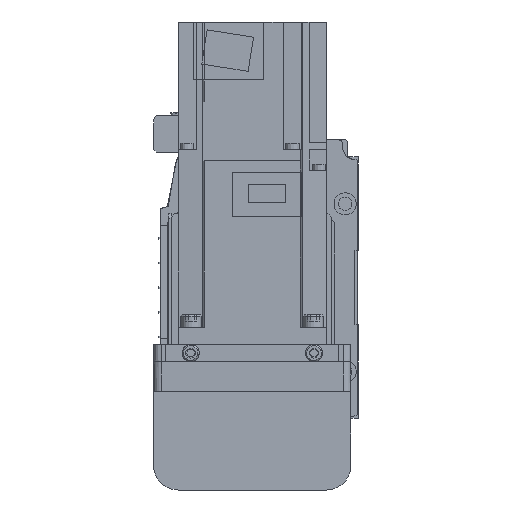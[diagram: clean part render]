
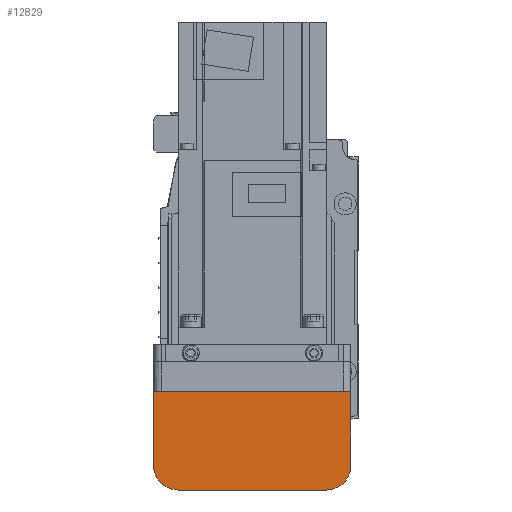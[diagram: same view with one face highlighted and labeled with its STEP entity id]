
A CAD part, left-side view. The second image highlights one B-rep face of the part: STEP entity #12829.
In plain terms, the highlighted planar face has unit normal (-1, 0, 0).
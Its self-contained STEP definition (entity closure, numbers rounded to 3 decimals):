
#503=CIRCLE('',#13819,10.);
#504=CIRCLE('',#13820,10.);
#2202=ORIENTED_EDGE('',*,*,#5177,.F.);
#2203=ORIENTED_EDGE('',*,*,#5178,.F.);
#2204=ORIENTED_EDGE('',*,*,#5179,.F.);
#2205=ORIENTED_EDGE('',*,*,#5180,.F.);
#2206=ORIENTED_EDGE('',*,*,#5181,.F.);
#2207=ORIENTED_EDGE('',*,*,#5182,.F.);
#5177=EDGE_CURVE('',#6771,#6767,#8077,.T.);
#5178=EDGE_CURVE('',#6783,#6771,#8078,.T.);
#5179=EDGE_CURVE('',#6784,#6783,#503,.T.);
#5180=EDGE_CURVE('',#6785,#6784,#8079,.T.);
#5181=EDGE_CURVE('',#6786,#6785,#504,.T.);
#5182=EDGE_CURVE('',#6767,#6786,#8080,.T.);
#6767=VERTEX_POINT('',#20083);
#6771=VERTEX_POINT('',#20093);
#6783=VERTEX_POINT('',#20122);
#6784=VERTEX_POINT('',#20124);
#6785=VERTEX_POINT('',#20126);
#6786=VERTEX_POINT('',#20128);
#8077=LINE('',#20120,#9305);
#8078=LINE('',#20121,#9306);
#8079=LINE('',#20125,#9307);
#8080=LINE('',#20129,#9308);
#9305=VECTOR('',#16132,1000.);
#9306=VECTOR('',#16133,1000.);
#9307=VECTOR('',#16136,1000.);
#9308=VECTOR('',#16139,1000.);
#10360=EDGE_LOOP('',(#2202,#2203,#2204,#2205,#2206,#2207));
#11386=FACE_BOUND('',#10360,.T.);
#12255=PLANE('',#13818);
#12829=ADVANCED_FACE('',(#11386),#12255,.F.);
#13818=AXIS2_PLACEMENT_3D('',#20119,#16130,#16131);
#13819=AXIS2_PLACEMENT_3D('',#20123,#16134,#16135);
#13820=AXIS2_PLACEMENT_3D('',#20127,#16137,#16138);
#16130=DIRECTION('',(1.,0.,0.));
#16131=DIRECTION('',(0.,0.,-1.));
#16132=DIRECTION('',(0.,-1.,0.));
#16133=DIRECTION('',(0.,0.,1.));
#16134=DIRECTION('',(1.,0.,0.));
#16135=DIRECTION('',(0.,0.,-1.));
#16136=DIRECTION('',(0.,1.,0.));
#16137=DIRECTION('',(1.,0.,0.));
#16138=DIRECTION('',(0.,0.,-1.));
#16139=DIRECTION('',(0.,0.,-1.));
#20083=CARTESIAN_POINT('',(-192.,-40.,-12.1));
#20093=CARTESIAN_POINT('',(-192.,40.,-12.1));
#20119=CARTESIAN_POINT('',(-192.,37.,7.));
#20120=CARTESIAN_POINT('',(-192.,50.,-12.1));
#20121=CARTESIAN_POINT('',(-192.,40.,-42.));
#20122=CARTESIAN_POINT('',(-192.,40.,-42.));
#20123=CARTESIAN_POINT('',(-192.,30.,-42.));
#20124=CARTESIAN_POINT('',(-192.,30.,-52.));
#20125=CARTESIAN_POINT('',(-192.,-30.,-52.));
#20126=CARTESIAN_POINT('',(-192.,-30.,-52.));
#20127=CARTESIAN_POINT('',(-192.,-30.,-42.));
#20128=CARTESIAN_POINT('',(-192.,-40.,-42.));
#20129=CARTESIAN_POINT('',(-192.,-40.,-12.1));
